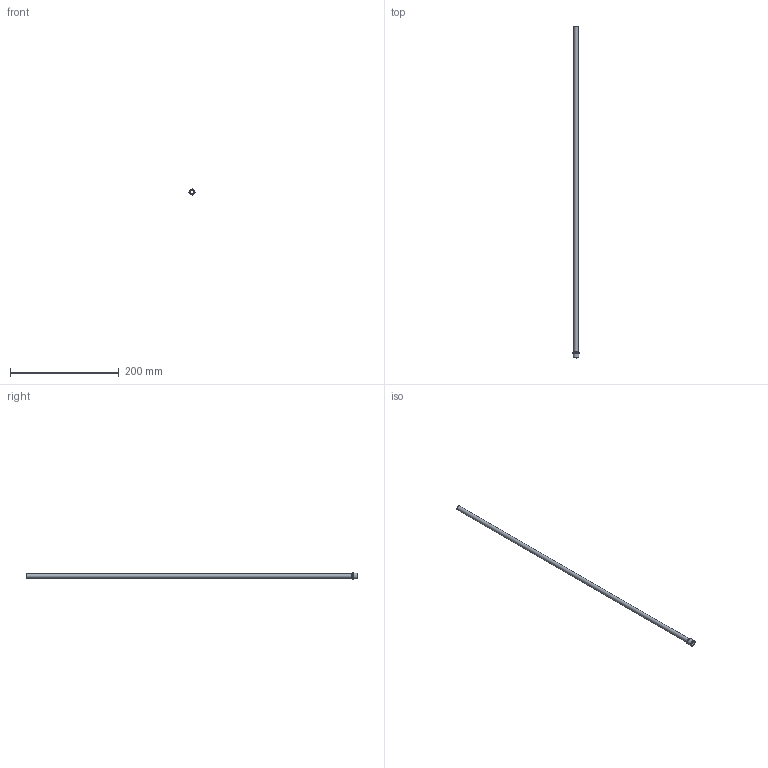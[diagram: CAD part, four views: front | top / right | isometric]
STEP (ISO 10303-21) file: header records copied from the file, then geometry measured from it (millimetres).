
FILE_DESCRIPTION(/* description */ (''),/* implementation_level */ '2;1');
FILE_NAME(/* name */ 'C:/Users/drich/Desktop/JHF312T-24 v1.step',/* time_stamp */ '2020-01-02T20:03:24-06:00',/* author */ (''),/* organization */ (''),/* preprocessor_version */ 'ST-DEVELOPER v18',/* originating_system */ 'Autodesk Translation Framework v8.12.0.6',/* authorisation */ '');
FILE_SCHEMA (('AUTOMOTIVE_DESIGN { 1 0 10303 214 3 1 1 }'));
Length unit declared in the file: inch
Products named in the file (1): JHF312T-24
Bounding box: 11.15 x 609.6 x 11.15 mm (x, y, z)
Volume: 4958.2 mm3; surface area: 29392.6 mm2
Topology: 1 solids, 1 shells, 10 faces, 24 edges, 18 vertices
Faces by surface type: cylinder 4, plane 4, cone 1, torus 1
Full cylindrical faces by diameter (mm): 7.315 x1, 7.925 x1, 11.011 x1, 11.151 x1
Entity records: 354 total; most frequent: DIRECTION 65, CARTESIAN_POINT 53, ORIENTED_EDGE 48, AXIS2_PLACEMENT_3D 30, EDGE_CURVE 24, CIRCLE 19, VERTEX_POINT 18, EDGE_LOOP 14
